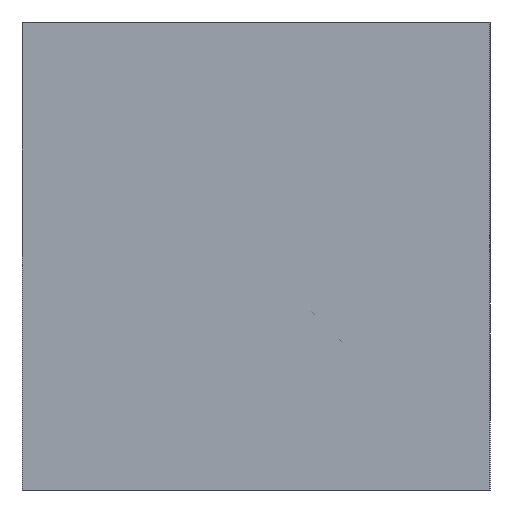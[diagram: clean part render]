
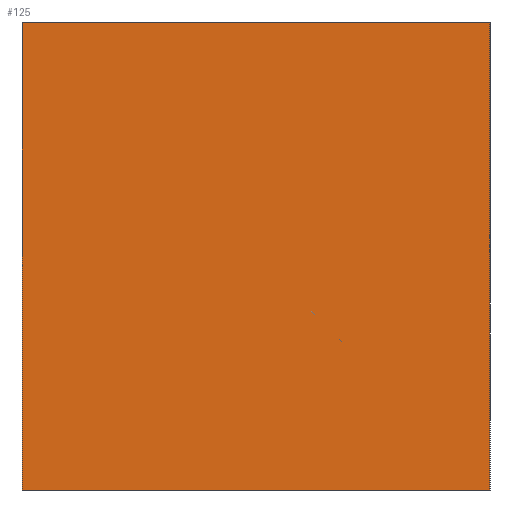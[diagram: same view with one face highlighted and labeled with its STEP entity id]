
A CAD part, left-side view. The second image highlights one B-rep face of the part: STEP entity #125.
In plain terms, the highlighted planar face has unit normal (-1, 0, 0).
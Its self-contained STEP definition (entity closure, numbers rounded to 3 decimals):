
#125=ADVANCED_FACE('',(#382),#384,.T.);
#382=FACE_BOUND('',#383,.T.);
#383=EDGE_LOOP('',(#575,#576,#577,#578));
#384=PLANE('',#385);
#385=AXIS2_PLACEMENT_3D('',#386,#387,#388);
#386=CARTESIAN_POINT('',(0.,0.,0.));
#387=DIRECTION('',(-1.,0.,0.));
#388=DIRECTION('',(0.,0.,1.));
#575=ORIENTED_EDGE('',*,*,#639,.T.);
#576=ORIENTED_EDGE('',*,*,#622,.T.);
#577=ORIENTED_EDGE('',*,*,#630,.F.);
#578=ORIENTED_EDGE('',*,*,#643,.F.);
#622=EDGE_CURVE('',#663,#668,#670,.T.);
#630=EDGE_CURVE('',#683,#668,#685,.T.);
#639=EDGE_CURVE('',#701,#663,#702,.T.);
#643=EDGE_CURVE('',#701,#683,#707,.T.);
#663=VERTEX_POINT('',#883);
#668=VERTEX_POINT('',#892);
#670=LINE('',#896,#897);
#683=VERTEX_POINT('',#929);
#685=LINE('',#933,#934);
#701=VERTEX_POINT('',#973);
#702=LINE('',#974,#975);
#707=LINE('',#988,#989);
#883=CARTESIAN_POINT('',(0.,0.,40.));
#892=CARTESIAN_POINT('',(0.,40.,40.));
#896=CARTESIAN_POINT('',(0.,0.,40.));
#897=VECTOR('',#898,1.);
#898=DIRECTION('',(0.,1.,0.));
#929=CARTESIAN_POINT('',(0.,40.,0.));
#933=CARTESIAN_POINT('',(0.,40.,0.));
#934=VECTOR('',#935,1.);
#935=DIRECTION('',(0.,0.,1.));
#973=CARTESIAN_POINT('',(0.,0.,0.));
#974=CARTESIAN_POINT('',(0.,0.,0.));
#975=VECTOR('',#976,1.);
#976=DIRECTION('',(0.,0.,1.));
#988=CARTESIAN_POINT('',(0.,0.,0.));
#989=VECTOR('',#990,1.);
#990=DIRECTION('',(0.,1.,0.));
